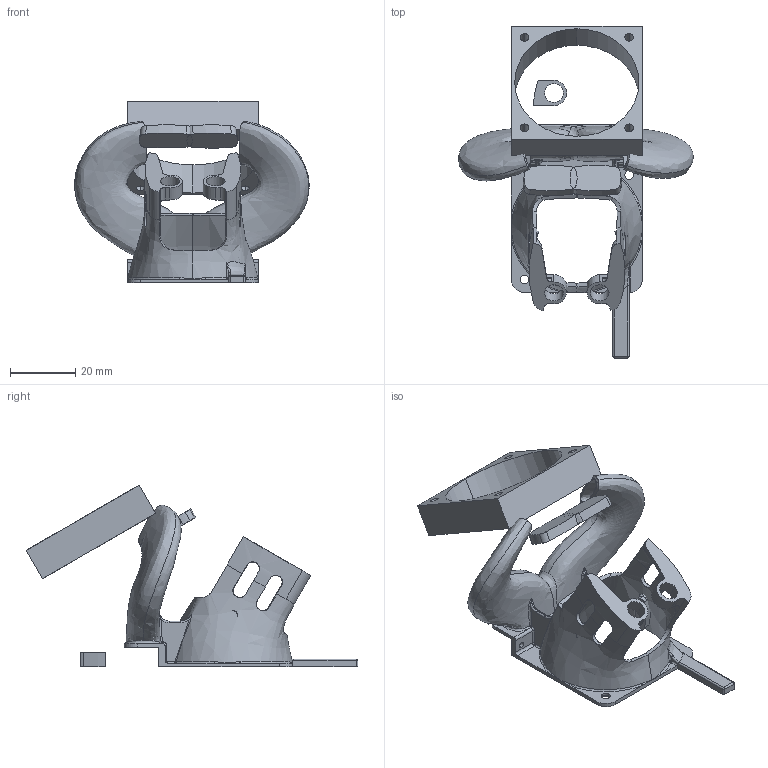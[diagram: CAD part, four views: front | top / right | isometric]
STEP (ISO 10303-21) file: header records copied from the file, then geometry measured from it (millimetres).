
FILE_DESCRIPTION (( 'STEP AP214' ), '1' );
FILE_NAME ('MiniMe_Hotend_Duct_4010_v4.STEP', '2020-06-15T08:42:50', ( '' ), ( '' ), 'SwSTEP 2.0', 'SolidWorks 2017', '' );
FILE_SCHEMA (( 'AUTOMOTIVE_DESIGN' ));
Length unit declared in the file: millimetre
Products named in the file (2): MiniMe_Hotend_Duct_4010_v4
Bounding box: 71.7 x 101.51 x 55.66 mm (x, y, z)
Volume: 15147.2 mm3; surface area: 22280.3 mm2
Topology: 7 solids, 7 shells, 357 faces, 972 edges, 608 vertices
Faces by surface type: bspline 141, plane 87, cylinder 84, cone 16, torus 16, sphere 13
Entity records: 87046 total; most frequent: CARTESIAN_POINT 79082, ORIENTED_EDGE 1924, DIRECTION 1262, EDGE_CURVE 962, VERTEX_POINT 608, AXIS2_PLACEMENT_3D 505, EDGE_LOOP 384, B_SPLINE_CURVE_WITH_KNOTS 383
